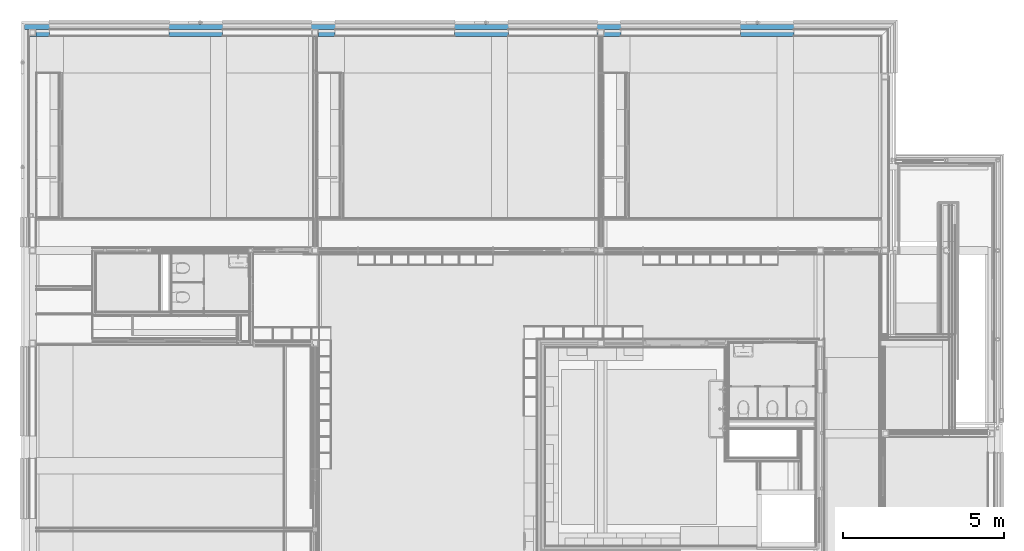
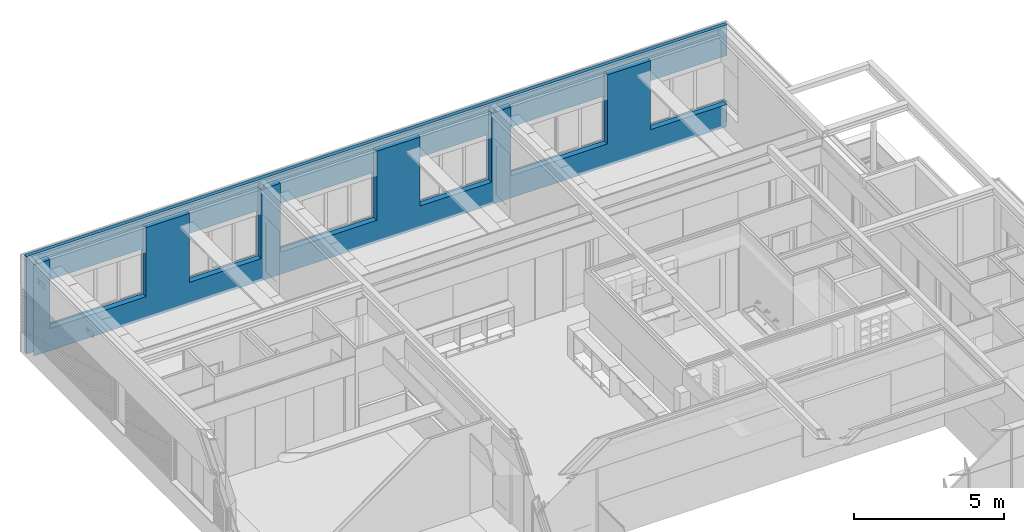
# One storey, part 83 of 137: 2 building element parts, 6 openings, 1 element without a shape of its own.
"""IFC2X3 building model written with IfcOpenShell, lengths in millimetres."""

from ifc_helpers import new_model, entity, si_unit, converted_unit, derived_unit, money_unit, direction, frame, origin_with_axes, place, context, subcontext, project, spatial, faceted_brep, material, type_object, element, aggregate, save


model = new_model("IFC2X3")

# Units and contexts
model_context = context("Model", 3, precision=0.01, world=origin_with_axes(), true_north=direction((0.0, 1.0)))
body_context = subcontext(model_context, "Body", "Model", "MODEL_VIEW")
ifc_project = project(units=[si_unit("LENGTHUNIT", "METRE", prefix="MILLI"), si_unit("AREAUNIT", "SQUARE_METRE"), si_unit("VOLUMEUNIT", "CUBIC_METRE"), converted_unit("PLANEANGLEUNIT", "DEGREE", entity("IfcPlaneAngleMeasure", 0.0174532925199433), si_unit("PLANEANGLEUNIT", "RADIAN"), dimensions=[0, 0, 0, 0, 0, 0, 0]), money_unit("EUR"), converted_unit("TIMEUNIT", "Year", entity("IfcTimeMeasure", 31556926.0), si_unit("TIMEUNIT", "SECOND"), dimensions=[0, 0, 1, 0, 0, 0, 0]), si_unit("MASSUNIT", "GRAM", prefix="KILO"), si_unit("THERMODYNAMICTEMPERATUREUNIT", "DEGREE_CELSIUS"), si_unit("LUMINOUSINTENSITYUNIT", "LUMEN"), si_unit("ENERGYUNIT", "JOULE", prefix="MEGA"), derived_unit("THERMALCONDUCTANCEUNIT", [(si_unit("POWERUNIT", "WATT"), 1), (si_unit("LENGTHUNIT", "METRE"), -1), (si_unit("THERMODYNAMICTEMPERATUREUNIT", "KELVIN"), -1)]), derived_unit("SPECIFICHEATCAPACITYUNIT", [(si_unit("ENERGYUNIT", "JOULE"), 1), (si_unit("MASSUNIT", "GRAM", prefix="KILO"), -1), (si_unit("THERMODYNAMICTEMPERATUREUNIT", "KELVIN"), -1)]), derived_unit("MASSDENSITYUNIT", [(si_unit("MASSUNIT", "GRAM", prefix="KILO"), 1), (si_unit("VOLUMEUNIT", "CUBIC_METRE"), -1)])], contexts=[model_context])

# Site, building, storey
site_placement = place(None, origin_with_axes())
site = spatial("IfcSite", under=ifc_project, at=site_placement, Name="Site", CompositionType="ELEMENT")
building_placement = place(site_placement, origin_with_axes())
building = spatial("IfcBuilding", under=site, at=building_placement, Name="Naam gebouw", CompositionType="ELEMENT")
storey_placement = place(building_placement, frame((0.0, 0.0, 3960.0), z_axis=(0.0, 0.0, 1.0), x_axis=(1.0, 0.0, 0.0)))
storey = spatial("IfcBuildingStorey", under=building, at=storey_placement, Name="1e verdieping", CompositionType="ELEMENT", Elevation=3960.0)

# Wall, openings, building element parts
wall_type = type_object("IfcWallType", Name="21 Buitenwand spouwmuur 464", PredefinedType="NOTDEFINED")
wall_placement = place(storey_placement, frame((0.0, 29175.0, -100.0000000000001), z_axis=(0.0, 0.0, 1.0), x_axis=(1.0, 0.0, 0.0)))
wall = element("IfcWall", 1, at=wall_placement, inside=storey, type_object=wall_type, Name="21_Wand-x")
opening_1_placement = place(wall_placement, frame((2475.000000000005, 0.0, 899.9999999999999), z_axis=(0.0, 0.0, 1.0), x_axis=(1.0, 0.0, 0.0)))
element("IfcOpeningElement", 2, at=opening_1_placement, cuts=wall, Name="_Merk BA", context=body_context, shape_type="Brep", body=[
    faceted_brep([(1850.0, 0.0, 0.0), (1850.0, 0.0, 1810.0), (1850.0, 0.0, 2810.0), (1850.0, -214.9999999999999, 2810.0), (1850.0, -214.9999999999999, 0.0), (1850.0, 71.99999999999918, 0.0), (1850.0, 71.99999999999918, 1810.0), (-1850.0, 0.0, 1810.0), (-1850.0, 0.0, 2810.0), (-1850.0, -214.9999999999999, 2810.0), (-1850.0, -214.9999999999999, 0.0), (-1850.0, 0.0, 0.0), (-1850.0, 71.99999999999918, 0.0), (-1850.0, 71.99999999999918, 1810.0), (-1860.0, 71.99999999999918, 1810.0), (-1860.0, 71.99999999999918, -44.99999999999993), (1860.0, 71.99999999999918, -44.99999999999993), (1860.0, 71.99999999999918, 1810.0), (1860.0, 251.0000000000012, 1810.0), (-1860.0, 251.0000000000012, 1810.0), (-1860.0, 251.0000000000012, -44.99999999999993), (1860.0, 251.0000000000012, -44.99999999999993)], [[[0, 1, 2, 3, 4]], [[1, 0, 5, 6]], [[1, 7, 8, 2]], [[2, 8, 9, 3]], [[9, 10, 4, 3]], [[0, 4, 10, 11, 12, 5]], [[12, 13, 14, 15, 16, 17, 6, 5]], [[7, 1, 6, 13]], [[7, 11, 10, 9, 8]], [[11, 7, 13, 12]], [[13, 6, 17, 18, 19, 14]], [[15, 14, 19, 20]], [[16, 15, 20, 21]], [[17, 16, 21, 18]], [[18, 21, 20, 19]]]),
])
opening_2_placement = place(wall_placement, frame((16209.99942456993, 0.0, 899.9999999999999), z_axis=(0.0, 0.0, 1.0), x_axis=(1.0, 0.0, 0.0)))
element("IfcOpeningElement", 3, at=opening_2_placement, cuts=wall, Name="_Merk BB", context=body_context, shape_type="Brep", body=[
    faceted_brep([(1375.0, 0.0, 0.0), (1375.0, 0.0, 1810.0), (1375.0, 0.0, 2810.0), (1375.0, -214.9999999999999, 2810.0), (1375.0, -214.9999999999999, 0.0), (1375.0, 71.99999999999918, 0.0), (1375.0, 71.99999999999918, 1810.0), (-1375.0, 0.0, 1810.0), (-1375.0, 0.0, 2810.0), (-1375.0, -214.9999999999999, 2810.0), (-1375.0, -214.9999999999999, 0.0), (-1375.0, 0.0, 0.0), (-1375.0, 71.99999999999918, 0.0), (-1375.0, 71.99999999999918, 1810.0), (-1385.0, 71.99999999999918, 1810.0), (-1385.0, 71.99999999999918, -44.99999999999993), (1385.000000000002, 71.99999999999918, -44.99999999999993), (1385.000000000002, 71.99999999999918, 1810.0), (1385.000000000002, 251.0000000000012, 1810.0), (-1385.0, 251.0000000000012, 1810.0), (-1385.0, 251.0000000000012, -44.99999999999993), (1385.000000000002, 251.0000000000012, -44.99999999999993)], [[[0, 1, 2, 3, 4]], [[1, 0, 5, 6]], [[1, 7, 8, 2]], [[2, 8, 9, 3]], [[9, 10, 4, 3]], [[0, 4, 10, 11, 12, 5]], [[12, 13, 14, 15, 16, 17, 6, 5]], [[7, 1, 6, 13]], [[7, 11, 10, 9, 8]], [[11, 7, 13, 12]], [[13, 6, 17, 18, 19, 14]], [[15, 14, 19, 20]], [[16, 15, 20, 21]], [[17, 16, 21, 18]], [[18, 21, 20, 19]]]),
])
opening_3_placement = place(wall_placement, frame((7360.000000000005, 0.0, 899.9999999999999), z_axis=(0.0, 0.0, 1.0), x_axis=(1.0, 0.0, 0.0)))
element("IfcOpeningElement", 4, at=opening_3_placement, cuts=wall, Name="_Merk BB", context=body_context, shape_type="Brep", body=[
    faceted_brep([(1375.000000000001, 0.0, 0.0), (1375.000000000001, 0.0, 1810.0), (1375.000000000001, 0.0, 2810.0), (1375.000000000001, -214.9999999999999, 2810.0), (1375.000000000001, -214.9999999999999, 0.0), (1375.000000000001, 71.99999999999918, 0.0), (1375.000000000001, 71.99999999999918, 1810.0), (-1375.0, 0.0, 1810.0), (-1375.0, 0.0, 2810.0), (-1375.0, -214.9999999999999, 2810.0), (-1375.0, -214.9999999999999, 0.0), (-1375.0, 0.0, 0.0), (-1375.0, 71.99999999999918, 0.0), (-1375.0, 71.99999999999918, 1810.0), (-1385.0, 71.99999999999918, 1810.0), (-1385.0, 71.99999999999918, -44.99999999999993), (1385.000000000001, 71.99999999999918, -44.99999999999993), (1385.000000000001, 71.99999999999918, 1810.0), (1385.000000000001, 251.0000000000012, 1810.0), (-1385.0, 251.0000000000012, 1810.0), (-1385.0, 251.0000000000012, -44.99999999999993), (1385.000000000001, 251.0000000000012, -44.99999999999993)], [[[0, 1, 2, 3, 4]], [[1, 0, 5, 6]], [[1, 7, 8, 2]], [[2, 8, 9, 3]], [[9, 10, 4, 3]], [[0, 4, 10, 11, 12, 5]], [[12, 13, 14, 15, 16, 17, 6, 5]], [[7, 1, 6, 13]], [[7, 11, 10, 9, 8]], [[11, 7, 13, 12]], [[13, 6, 17, 18, 19, 14]], [[15, 14, 19, 20]], [[16, 15, 20, 21]], [[17, 16, 21, 18]], [[18, 21, 20, 19]]]),
])
opening_4_placement = place(wall_placement, frame((20174.99942456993, 0.0, 899.9999999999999), z_axis=(0.0, 0.0, 1.0), x_axis=(1.0, 0.0, 0.0)))
element("IfcOpeningElement", 5, at=opening_4_placement, cuts=wall, Name="_Merk BA", context=body_context, shape_type="Brep", body=[
    faceted_brep([(1850.000000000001, 0.0, 0.0), (1850.000000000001, 0.0, 1810.0), (1850.000000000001, 0.0, 2810.0), (1850.000000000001, -214.9999999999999, 2810.0), (1850.000000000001, -214.9999999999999, 0.0), (1850.000000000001, 71.99999999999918, 0.0), (1850.000000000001, 71.99999999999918, 1810.0), (-1850.000000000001, 0.0, 1810.0), (-1850.000000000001, 0.0, 2810.0), (-1850.000000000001, -214.9999999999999, 2810.0), (-1850.000000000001, -214.9999999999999, 0.0), (-1850.000000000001, 0.0, 0.0), (-1850.000000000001, 71.99999999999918, 0.0), (-1850.000000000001, 71.99999999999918, 1810.0), (-1860.0, 71.99999999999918, 1810.0), (-1860.0, 71.99999999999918, -44.99999999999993), (1860.0, 71.99999999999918, -44.99999999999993), (1860.0, 71.99999999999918, 1810.0), (1860.0, 251.0000000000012, 1810.0), (-1860.0, 251.0000000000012, 1810.0), (-1860.0, 251.0000000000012, -44.99999999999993), (1860.0, 251.0000000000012, -44.99999999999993)], [[[0, 1, 2, 3, 4]], [[1, 0, 5, 6]], [[1, 7, 8, 2]], [[2, 8, 9, 3]], [[9, 10, 4, 3]], [[0, 4, 10, 11, 12, 5]], [[12, 13, 14, 15, 16, 17, 6, 5]], [[7, 1, 6, 13]], [[7, 11, 10, 9, 8]], [[11, 7, 13, 12]], [[13, 6, 17, 18, 19, 14]], [[15, 14, 19, 20]], [[16, 15, 20, 21]], [[17, 16, 21, 18]], [[18, 21, 20, 19]]]),
])
opening_5_placement = place(wall_placement, frame((11324.99942456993, 0.0, 899.9999999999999), z_axis=(0.0, 0.0, 1.0), x_axis=(1.0, 0.0, 0.0)))
element("IfcOpeningElement", 6, at=opening_5_placement, cuts=wall, Name="_Merk BA", context=body_context, shape_type="Brep", body=[
    faceted_brep([(1850.0, 0.0, 0.0), (1850.0, 0.0, 1810.0), (1850.0, 0.0, 2810.0), (1850.0, -214.9999999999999, 2810.0), (1850.0, -214.9999999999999, 0.0), (1850.0, 71.99999999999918, 0.0), (1850.0, 71.99999999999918, 1810.0), (-1850.0, 0.0, 1810.0), (-1850.0, 0.0, 2810.0), (-1850.0, -214.9999999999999, 2810.0), (-1850.0, -214.9999999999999, 0.0), (-1850.0, 0.0, 0.0), (-1850.0, 71.99999999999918, 0.0), (-1850.0, 71.99999999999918, 1810.0), (-1860.0, 71.99999999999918, 1810.0), (-1860.0, 71.99999999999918, -44.99999999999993), (1860.0, 71.99999999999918, -44.99999999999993), (1860.0, 71.99999999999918, 1810.0), (1860.0, 251.0000000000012, 1810.0), (-1860.0, 251.0000000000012, 1810.0), (-1860.0, 251.0000000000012, -44.99999999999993), (1860.0, 251.0000000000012, -44.99999999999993)], [[[0, 1, 2, 3, 4]], [[1, 0, 5, 6]], [[1, 7, 8, 2]], [[2, 8, 9, 3]], [[9, 10, 4, 3]], [[0, 4, 10, 11, 12, 5]], [[12, 13, 14, 15, 16, 17, 6, 5]], [[7, 1, 6, 13]], [[7, 11, 10, 9, 8]], [[11, 7, 13, 12]], [[13, 6, 17, 18, 19, 14]], [[15, 14, 19, 20]], [[16, 15, 20, 21]], [[17, 16, 21, 18]], [[18, 21, 20, 19]]]),
])
opening_6_placement = place(wall_placement, frame((25144.99971228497, 0.0, 899.9999999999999), z_axis=(0.0, 0.0, 1.0), x_axis=(1.0, 0.0, 0.0)))
element("IfcOpeningElement", 7, at=opening_6_placement, cuts=wall, Name="_Merk BC2", context=body_context, shape_type="Brep", body=[
    faceted_brep([(1455.000287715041, 0.0, 1810.0), (-1460.000287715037, 0.0, 1810.0), (-1460.000287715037, 0.0, 2810.0), (1455.000287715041, 0.0, 2810.0), (1527.00028769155, 71.99999999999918, 1810.0), (-1460.000287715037, 71.99999999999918, 1810.0), (-1460.000287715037, 0.0, 0.0), (-1460.000287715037, -214.9999999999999, 0.0), (-1460.000287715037, -214.9999999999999, 2810.0), (1240.000287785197, -214.9999999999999, 2810.0), (1240.000287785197, -214.9999999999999, 0.0), (1527.00028769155, 71.99999999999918, 0.0), (1527.00028769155, 71.99999999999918, -44.99999999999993), (1706.000287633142, 251.0000000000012, -44.99999999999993), (1706.000287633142, 251.0000000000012, 1810.0), (-1470.000287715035, 251.0000000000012, 1810.0), (-1470.000287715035, 71.99999999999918, 1810.0), (-1460.000287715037, 71.99999999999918, 0.0), (-1470.000287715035, 71.99999999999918, -44.99999999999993), (-1470.000287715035, 251.0000000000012, -44.99999999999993)], [[[0, 1, 2, 3]], [[1, 0, 4, 5]], [[1, 6, 7, 8, 2]], [[3, 2, 8, 9]], [[3, 9, 10, 11, 12, 13, 14, 4, 0]], [[5, 4, 14, 15, 16]], [[6, 1, 5, 17]], [[10, 7, 6, 17, 11]], [[8, 7, 10, 9]], [[17, 5, 16, 18, 12, 11]], [[12, 18, 19, 13]], [[13, 19, 15, 14]], [[18, 16, 15, 19]]]),
])
ifc_material_1 = material(Name="Isolatie - Steenwol zacht")
building_element_part_1_placement = place(wall_placement, origin_with_axes())
building_element_part_1 = element("IfcBuildingElementPart", 8, at=building_element_part_1_placement, material=ifc_material_1, Name="Isolatie - Steenwol zacht", context=body_context, shape_type="Brep", body=[
    faceted_brep([(26671.99999997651, 71.99999999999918, 2710.0), (23684.99942456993, 71.99999999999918, 2710.0), (23674.99942456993, 71.99999999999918, 2710.0), (23674.99942456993, 144.9999999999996, 2710.0), (26744.99999995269, 144.999999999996, 2710.0), (26745.0, 0.0, 2710.0), (26672.0, 0.0, 2710.0), (26600.0, 0.0, 2710.0), (23684.99942456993, 0.0, 2710.0), (26671.99999997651, 71.99999999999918, 899.9999999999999), (26671.99999997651, 71.99999999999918, 855.0), (23674.99942456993, 71.99999999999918, 855.0), (23684.99942456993, 71.99999999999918, 899.9999999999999), (23674.99942456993, 144.9999999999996, 855.0), (26744.99999995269, 144.999999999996, 855.0), (26744.99999995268, 145.0000000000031, 0.0), (-144.9999999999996, 144.9999999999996, 0.0), (-144.9999999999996, 144.9999999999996, 3960.0), (26744.99999995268, 145.0000000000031, 3960.0), (615.0000000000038, 145.0000000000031, 855.0), (4335.000000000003, 145.0000000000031, 855.0), (4335.000000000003, 145.0000000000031, 2710.0), (615.0000000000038, 145.0000000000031, 2710.0), (8745.000000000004, 144.9999999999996, 2710.0), (5975.000000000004, 144.9999999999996, 2710.0), (5975.000000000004, 144.9999999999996, 855.0), (8745.000000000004, 144.9999999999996, 855.0), (9464.999424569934, 145.0000000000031, 855.0), (13184.99942456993, 145.0000000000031, 855.0), (13184.99942456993, 145.0000000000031, 2710.0), (9464.999424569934, 145.0000000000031, 2710.0), (17594.99942456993, 144.9999999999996, 2710.0), (14824.99942456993, 144.9999999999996, 2710.0), (14824.99942456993, 144.9999999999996, 855.0), (17594.99942456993, 144.9999999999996, 855.0), (18314.99942456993, 145.0000000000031, 855.0), (22034.99942456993, 145.0000000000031, 855.0), (22034.99942456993, 145.0000000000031, 2710.0), (18314.99942456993, 145.0000000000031, 2710.0), (26745.0, 0.0, 3960.0), (-144.9999999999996, 0.0, 3960.0), (-144.9999999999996, 0.0, 0.0), (26745.0, 0.0, 0.0), (26745.0, 0.0, 855.0), (26672.0, 0.0, 855.0), (26672.0, 0.0, 899.9999999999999), (23684.99942456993, 0.0, 899.9999999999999), (4325.000000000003, 0.0, 899.9999999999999), (625.0000000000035, 0.0, 899.9999999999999), (625.0000000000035, 0.0, 2710.0), (4325.000000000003, 0.0, 2710.0), (5985.000000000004, 0.0, 2710.0), (8735.000000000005, 0.0, 2710.0), (8735.000000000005, 0.0, 899.9999999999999), (5985.000000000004, 0.0, 899.9999999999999), (13174.99942456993, 0.0, 899.9999999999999), (9474.999424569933, 0.0, 899.9999999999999), (9474.999424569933, 0.0, 2710.0), (13174.99942456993, 0.0, 2710.0), (14834.99942456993, 0.0, 2710.0), (17584.99942456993, 0.0, 2710.0), (17584.99942456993, 0.0, 899.9999999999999), (14834.99942456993, 0.0, 899.9999999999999), (22024.99942456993, 0.0, 899.9999999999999), (18324.99942456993, 0.0, 899.9999999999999), (18324.99942456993, 0.0, 2710.0), (22024.99942456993, 0.0, 2710.0), (615.0000000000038, 71.99999999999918, 855.0), (4335.000000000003, 71.99999999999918, 855.0), (4335.000000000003, 71.99999999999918, 2710.0), (4325.000000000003, 71.99999999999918, 2710.0), (625.0000000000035, 71.99999999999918, 2710.0), (615.0000000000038, 71.99999999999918, 2710.0), (8745.000000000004, 71.99999999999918, 2710.0), (8735.000000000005, 71.99999999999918, 2710.0), (5985.000000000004, 71.99999999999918, 2710.0), (5975.000000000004, 71.99999999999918, 2710.0), (5975.000000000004, 71.99999999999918, 855.0), (8745.000000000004, 71.99999999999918, 855.0), (9464.999424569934, 71.99999999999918, 855.0), (13184.99942456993, 71.99999999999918, 855.0), (13184.99942456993, 71.99999999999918, 2710.0), (13174.99942456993, 71.99999999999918, 2710.0), (9474.999424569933, 71.99999999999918, 2710.0), (9464.999424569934, 71.99999999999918, 2710.0), (17594.99942456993, 71.99999999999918, 2710.0), (17584.99942456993, 71.99999999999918, 2710.0), (14834.99942456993, 71.99999999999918, 2710.0), (14824.99942456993, 71.99999999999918, 2710.0), (14824.99942456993, 71.99999999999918, 855.0), (17594.99942456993, 71.99999999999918, 855.0), (18314.99942456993, 71.99999999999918, 855.0), (22034.99942456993, 71.99999999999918, 855.0), (22034.99942456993, 71.99999999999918, 2710.0), (22024.99942456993, 71.99999999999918, 2710.0), (18324.99942456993, 71.99999999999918, 2710.0), (18314.99942456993, 71.99999999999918, 2710.0), (4325.000000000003, 71.99999999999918, 899.9999999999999), (625.0000000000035, 71.99999999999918, 899.9999999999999), (8735.000000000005, 71.99999999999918, 899.9999999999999), (5985.000000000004, 71.99999999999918, 899.9999999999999), (13174.99942456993, 71.99999999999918, 899.9999999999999), (9474.999424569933, 71.99999999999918, 899.9999999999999), (17584.99942456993, 71.99999999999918, 899.9999999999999), (14834.99942456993, 71.99999999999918, 899.9999999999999), (22024.99942456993, 71.99999999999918, 899.9999999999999), (18324.99942456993, 71.99999999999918, 899.9999999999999)], [[[0, 1, 2, 3, 4, 5, 6]], [[7, 8, 1, 0, 6]], [[9, 10, 11, 2, 1, 12]], [[13, 3, 2, 11]], [[13, 14, 15, 16, 17, 18, 4, 3], [19, 20, 21, 22], [23, 24, 25, 26], [27, 28, 29, 30], [31, 32, 33, 34], [35, 36, 37, 38]], [[5, 4, 18, 39]], [[8, 7, 6, 5, 39, 40, 41, 42, 43, 44, 45, 46], [47, 48, 49, 50], [51, 52, 53, 54], [55, 56, 57, 58], [59, 60, 61, 62], [63, 64, 65, 66]], [[8, 46, 12, 1]], [[10, 9, 45, 44]], [[14, 13, 11, 10, 44, 43]], [[9, 12, 46, 45]], [[14, 43, 42, 15]], [[41, 16, 15, 42]], [[17, 16, 41, 40]], [[17, 40, 39, 18]], [[20, 19, 67, 68]], [[21, 20, 68, 69]], [[69, 70, 71, 72, 22, 21]], [[19, 22, 72, 67]], [[73, 74, 75, 76, 24, 23]], [[76, 77, 25, 24]], [[77, 78, 26, 25]], [[78, 73, 23, 26]], [[28, 27, 79, 80]], [[29, 28, 80, 81]], [[81, 82, 83, 84, 30, 29]], [[27, 30, 84, 79]], [[85, 86, 87, 88, 32, 31]], [[88, 89, 33, 32]], [[89, 90, 34, 33]], [[90, 85, 31, 34]], [[36, 35, 91, 92]], [[37, 36, 92, 93]], [[93, 94, 95, 96, 38, 37]], [[35, 38, 96, 91]], [[47, 97, 98, 48]], [[48, 98, 71, 49]], [[49, 71, 70, 50]], [[50, 70, 97, 47]], [[74, 52, 51, 75]], [[99, 53, 52, 74]], [[100, 54, 53, 99]], [[75, 51, 54, 100]], [[55, 101, 102, 56]], [[56, 102, 83, 57]], [[57, 83, 82, 58]], [[58, 82, 101, 55]], [[86, 60, 59, 87]], [[103, 61, 60, 86]], [[104, 62, 61, 103]], [[87, 59, 62, 104]], [[63, 105, 106, 64]], [[64, 106, 95, 65]], [[65, 95, 94, 66]], [[66, 94, 105, 63]], [[71, 98, 97, 70, 69, 68, 67, 72]], [[77, 76, 75, 100, 99, 74, 73, 78]], [[81, 80, 79, 84, 83, 102, 101, 82]], [[103, 86, 85, 90, 89, 88, 87, 104]], [[95, 106, 105, 94, 93, 92, 91, 96]]]),
])
ifc_material_2 = material(Name="Steen - Kalkzandsteen C")
building_element_part_2_placement = place(wall_placement, origin_with_axes())
building_element_part_2 = element("IfcBuildingElementPart", 9, at=building_element_part_2_placement, material=ifc_material_2, Name="Steen - Kalkzandsteen C", context=body_context, shape_type="Brep", body=[
    faceted_brep([(8735.000000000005, 0.0, 3699.999999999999), (8749.01097744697, 0.0, 3699.999999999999), (8749.01097744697, 0.000178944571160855, 3695.000002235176), (8735.000000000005, 0.0, 3695.000002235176), (8735.000000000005, -213.9999999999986, 3700.0), (8749.010850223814, -213.9999999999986, 3700.0), (8749.01085022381, -213.9999999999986, 3695.000002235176), (8735.000000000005, -213.9999999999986, 3695.000002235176)], [[[0, 1, 2, 3]], [[4, 5, 1, 0]], [[1, 5, 6, 2]], [[3, 2, 6, 7]], [[0, 3, 7, 4]], [[7, 6, 5, 4]]]),
    faceted_brep([(17584.99942456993, 0.0, 3699.999999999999), (17598.99942456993, 0.0, 3699.999999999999), (17598.99942456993, 0.0, 3695.000029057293), (17584.99942456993, 0.0, 3695.000029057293), (17584.99942456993, -213.9999999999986, 3700.0), (17598.99942456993, -213.9999999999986, 3700.0), (17598.99942456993, -213.9999999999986, 3695.000029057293), (17584.99942456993, -213.9999999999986, 3695.000029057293)], [[[0, 1, 2, 3]], [[4, 5, 1, 0]], [[5, 6, 2, 1]], [[3, 2, 6, 7]], [[0, 3, 7, 4]], [[7, 6, 5, 4]]]),
    faceted_brep([(23684.99942456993, 0.0, 2710.0), (23684.99942456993, 0.0, 899.9999999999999), (26600.0, 0.0, 899.9999999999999), (26600.0, 0.0, 0.0), (17799.99942456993, 0.0, 0.0), (17799.99942456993, 0.0, 3675.000029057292), (17899.99942456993, 0.0, 3675.000029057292), (17899.99942456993, 0.0, 3695.000029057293), (17800.99942456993, 0.0, 3695.000029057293), (17800.99942456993, 0.0, 3699.999999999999), (18324.99942456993, 0.0, 3699.999999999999), (18324.99942456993, 0.0, 899.9999999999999), (22024.99942456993, 0.0, 899.9999999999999), (22024.99942456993, 0.0, 3699.999999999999), (23684.99942456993, 0.0, 3699.999999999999), (23684.99942456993, -213.9999999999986, 3700.0), (23684.99942456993, -213.9999999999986, 899.9999999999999), (26386.00000006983, -213.9999999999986, 899.9999999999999), (26600.00000005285, -213.9999999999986, 899.9999999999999), (26600.00000006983, -213.9999999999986, 0.0), (0.0, -213.9999999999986, 0.0), (0.0, -200.0000000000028, 0.0), (199.9999999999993, -200.0000000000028, 0.0), (199.9999999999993, 0.0, 0.0), (8750.000000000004, 0.0, 0.0), (8750.000000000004, -200.0000000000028, 0.0), (8950.000000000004, -200.0000000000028, 0.0), (8950.000000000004, 0.0, 0.0), (17599.99942456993, 0.0, 0.0), (17599.99942456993, -200.0000000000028, 0.0), (17799.99942456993, -200.0000000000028, 0.0), (17799.99942456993, -200.0000000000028, 3675.000029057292), (17599.99942456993, -200.0000000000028, 3675.000029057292), (17599.99942456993, 0.0, 3675.000029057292), (17584.99942456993, 0.0, 3675.000029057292), (17584.99942456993, -213.9999999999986, 3675.000029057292), (17899.99942456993, -213.9999999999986, 3675.000029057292), (17899.99942456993, -213.9999999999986, 3695.000029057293), (17800.99942456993, -213.9999999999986, 3695.000029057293), (17800.99942456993, -213.9999999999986, 3700.0), (18324.99942456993, -213.9999999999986, 3700.0), (18324.99942456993, -213.9999999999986, 899.9999999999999), (22024.99942456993, -213.9999999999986, 899.9999999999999), (22024.99942456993, -213.9999999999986, 3700.0), (17584.99942456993, -213.9999999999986, 899.9999999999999), (14834.99942456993, -213.9999999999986, 899.9999999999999), (14834.99942456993, -213.9999999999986, 3700.0), (13174.99942456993, -213.9999999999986, 3700.0), (13174.99942456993, -213.9999999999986, 899.9999999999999), (9474.999424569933, -213.9999999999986, 899.9999999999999), (9474.999424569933, -213.9999999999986, 3700.0), (8951.010850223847, -213.9999999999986, 3700.0), (8951.010850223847, -213.9999999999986, 3695.000002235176), (9050.010850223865, -213.9999999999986, 3695.000002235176), (9050.010850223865, -213.9999999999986, 3683.000002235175), (8735.000000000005, -213.9999999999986, 3683.000002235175), (8735.000000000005, -213.9999999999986, 899.9999999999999), (5985.000000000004, -213.9999999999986, 899.9999999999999), (5985.000000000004, -213.9999999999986, 3700.0), (4325.000000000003, -213.9999999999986, 3700.0), (4325.000000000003, -213.9999999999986, 899.9999999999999), (625.0000000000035, -213.9999999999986, 899.9999999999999), (625.0000000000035, -213.9999999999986, 3700.0), (201.0000004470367, -213.9999999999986, 3700.0), (201.0000004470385, -213.9999999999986, 3695.000001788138), (299.0000049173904, -213.9999999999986, 3695.000001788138), (299.0000049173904, -213.9999999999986, 3685.000001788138), (0.0, -213.9999999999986, 3685.000001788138), (0.0, -200.0000000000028, 3685.000001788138), (199.9999999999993, -200.0000000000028, 3685.000001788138), (199.9999999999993, 0.0, 3685.000001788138), (299.0000049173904, 0.0, 3685.000001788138), (299.0000049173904, 0.0, 3695.000001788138), (201.0000004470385, 0.0, 3695.000001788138), (201.0000004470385, 0.0, 3699.999999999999), (625.0000000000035, 0.0, 3699.999999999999), (625.0000000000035, 0.0, 899.9999999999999), (4325.000000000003, 0.0, 899.9999999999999), (4325.000000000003, 0.0, 3699.999999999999), (5985.000000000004, 0.0, 3699.999999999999), (5985.000000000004, 0.0, 899.9999999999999), (8735.000000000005, 0.0, 899.9999999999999), (8735.000000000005, 0.0, 3683.000002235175), (8750.000000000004, 0.0, 3683.000002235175), (8750.000000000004, -200.0000000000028, 3683.000002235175), (8950.000000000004, -200.0000000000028, 3683.000002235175), (8950.000000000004, 0.0, 3683.000002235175), (9474.999424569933, 0.0, 899.9999999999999), (13174.99942456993, 0.0, 899.9999999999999), (13174.99942456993, 0.0, 3699.999999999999), (14834.99942456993, 0.0, 3699.999999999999), (14834.99942456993, 0.0, 899.9999999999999), (17584.99942456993, 0.0, 899.9999999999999), (9050.010977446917, 0.0, 3683.000002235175), (9050.010977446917, 0.0, 3695.000002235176), (8951.010977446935, 5.885552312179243e-05, 3695.000002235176), (8951.010977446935, 0.0, 3699.999999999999), (9474.999424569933, 0.0, 3699.999999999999)], [[[0, 1, 2, 3, 4, 5, 6, 7, 8, 9, 10, 11, 12, 13, 14]], [[0, 14, 15, 16, 1]], [[2, 1, 16, 17, 18]], [[2, 18, 19, 3]], [[20, 21, 22, 23, 24, 25, 26, 27, 28, 29, 30, 4, 3, 19]], [[4, 30, 31, 5]], [[5, 31, 32, 33, 34, 35, 36, 6]], [[7, 6, 36, 37]], [[8, 7, 37, 38]], [[8, 38, 39, 9]], [[39, 40, 10, 9]], [[41, 11, 10, 40]], [[42, 12, 11, 41]], [[42, 43, 13, 12]], [[15, 14, 13, 43]], [[16, 15, 43, 42, 41, 40, 39, 38, 37, 36, 35, 44, 45, 46, 47, 48, 49, 50, 51, 52, 53, 54, 55, 56, 57, 58, 59, 60, 61, 62, 63, 64, 65, 66, 67, 20, 19, 18, 17]], [[68, 21, 20, 67]], [[68, 69, 22, 21]], [[69, 70, 23, 22]], [[70, 71, 72, 73, 74, 75, 76, 77, 78, 79, 80, 81, 82, 83, 24, 23]], [[25, 24, 83, 84]], [[25, 84, 85, 26]], [[26, 85, 86, 27]], [[87, 88, 89, 90, 91, 92, 34, 33, 28, 27, 86, 93, 94, 95, 96, 97]], [[32, 29, 28, 33]], [[30, 29, 32, 31]], [[35, 34, 92, 44]], [[92, 91, 45, 44]], [[91, 90, 46, 45]], [[46, 90, 89, 47]], [[89, 88, 48, 47]], [[87, 49, 48, 88]], [[97, 50, 49, 87]], [[97, 96, 51, 50]], [[95, 52, 51, 96]], [[94, 53, 52, 95]], [[93, 54, 53, 94]], [[84, 83, 82, 55, 54, 93, 86, 85]], [[81, 56, 55, 82]], [[57, 56, 81, 80]], [[58, 57, 80, 79]], [[78, 59, 58, 79]], [[60, 59, 78, 77]], [[60, 77, 76, 61]], [[61, 76, 75, 62]], [[63, 62, 75, 74]], [[63, 74, 73, 64]], [[64, 73, 72, 65]], [[65, 72, 71, 66]], [[67, 66, 71, 70, 69, 68]]]),
    faceted_brep([(17794.99942456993, -200.0000000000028, 3695.000029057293), (17794.99942456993, -200.0000000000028, 3699.999999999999), (17794.99942456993, -213.9999999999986, 3700.0), (17794.99942456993, -213.9999999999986, 3695.000029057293), (17604.99942456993, -200.0000000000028, 3699.999999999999), (17604.99942456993, -200.0000000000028, 3695.000029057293), (17604.99942456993, -213.9999999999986, 3700.0), (17604.99942456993, -213.9999999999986, 3695.000029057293)], [[[0, 1, 2, 3]], [[4, 1, 0, 5]], [[1, 4, 6, 2]], [[2, 6, 7, 3]], [[5, 0, 3, 7]], [[4, 5, 7, 6]]]),
    faceted_brep([(8945.01085854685, -200.0000000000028, 3695.000002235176), (8945.010858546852, -200.0000000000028, 3699.999999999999), (8945.010850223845, -213.9999999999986, 3700.0), (8945.010850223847, -213.9999999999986, 3695.000002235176), (8755.01085854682, -200.0000000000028, 3699.999999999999), (8755.010858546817, -200.0000000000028, 3695.000002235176), (8755.01085022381, -213.9999999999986, 3700.0), (8755.010850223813, -213.9999999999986, 3695.000002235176)], [[[0, 1, 2, 3]], [[4, 1, 0, 5]], [[1, 4, 6, 2]], [[2, 6, 7, 3]], [[5, 0, 3, 7]], [[4, 5, 7, 6]]]),
    faceted_brep([(195.0000004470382, -200.0000000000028, 3695.000001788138), (195.0000004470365, -200.0000000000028, 3699.999999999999), (195.0000004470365, -213.9999999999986, 3700.0), (195.0000004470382, -213.9999999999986, 3695.000001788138), (5.000000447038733, -200.0000000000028, 3699.999999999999), (5.000000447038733, -200.0000000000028, 3695.000001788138), (5.000000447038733, -213.9999999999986, 3700.0), (5.000000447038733, -213.9999999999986, 3695.000001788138)], [[[0, 1, 2, 3]], [[4, 1, 0, 5]], [[1, 4, 6, 2]], [[2, 6, 7, 3]], [[5, 0, 3, 7]], [[4, 5, 7, 6]]]),
])
aggregate(wall, [building_element_part_1, building_element_part_2])

save(model, "model.ifc")
